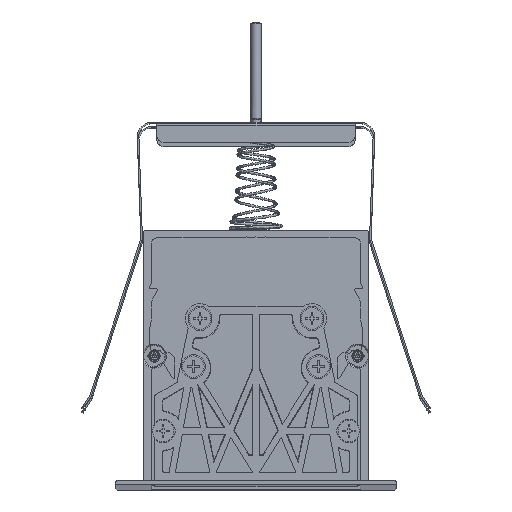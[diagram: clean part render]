
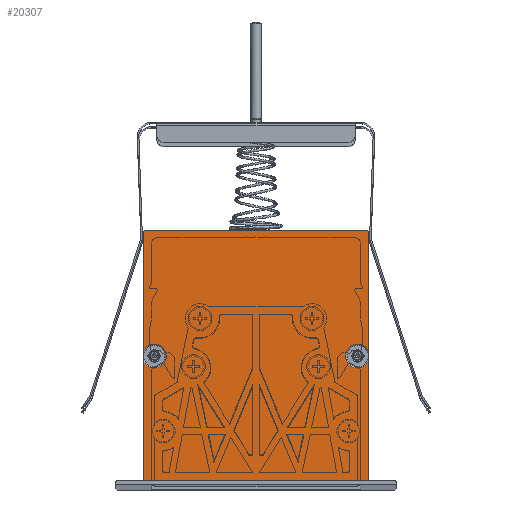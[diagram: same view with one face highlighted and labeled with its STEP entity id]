
A CAD part, top view. The second image highlights one B-rep face of the part: STEP entity #20307.
In plain terms, the highlighted planar face has unit normal (0, 0, 1).
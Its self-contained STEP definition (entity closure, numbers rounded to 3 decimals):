
#1758=FACE_OUTER_BOUND('',#2951,.T.);
#2951=EDGE_LOOP('',(#14426,#14427,#14428,#14429,#14430,#14431,#14432,#14433,
#14434,#14435,#14436,#14437,#14438));
#4318=LINE('',#31369,#5873);
#4319=LINE('',#31373,#5874);
#4320=LINE('',#31377,#5875);
#4321=LINE('',#31381,#5876);
#4322=LINE('',#31387,#5877);
#4323=LINE('',#31391,#5878);
#5873=VECTOR('',#25051,46.59);
#5874=VECTOR('',#25054,45.089);
#5875=VECTOR('',#25057,91.);
#5876=VECTOR('',#25060,45.089);
#5877=VECTOR('',#25065,46.59);
#5878=VECTOR('',#25068,87.2);
#7329=CIRCLE('',#22031,4.7);
#7330=CIRCLE('',#22032,1.5);
#7331=CIRCLE('',#22033,1.5);
#7332=CIRCLE('',#22034,4.7);
#7333=CIRCLE('',#22035,4.7);
#7334=CIRCLE('',#22036,0.4);
#7335=CIRCLE('',#22037,0.4);
#8554=VERTEX_POINT('',#31367);
#8555=VERTEX_POINT('',#31368);
#8556=VERTEX_POINT('',#31370);
#8557=VERTEX_POINT('',#31372);
#8558=VERTEX_POINT('',#31374);
#8559=VERTEX_POINT('',#31376);
#8560=VERTEX_POINT('',#31378);
#8561=VERTEX_POINT('',#31380);
#8562=VERTEX_POINT('',#31382);
#8563=VERTEX_POINT('',#31384);
#8564=VERTEX_POINT('',#31386);
#8565=VERTEX_POINT('',#31388);
#8566=VERTEX_POINT('',#31390);
#10745=EDGE_CURVE('',#8554,#8555,#4318,.T.);
#10746=EDGE_CURVE('',#8556,#8554,#7329,.T.);
#10747=EDGE_CURVE('',#8557,#8556,#4319,.T.);
#10748=EDGE_CURVE('',#8558,#8557,#7330,.F.);
#10749=EDGE_CURVE('',#8559,#8558,#4320,.T.);
#10750=EDGE_CURVE('',#8560,#8559,#7331,.F.);
#10751=EDGE_CURVE('',#8561,#8560,#4321,.T.);
#10752=EDGE_CURVE('',#8562,#8561,#7332,.T.);
#10753=EDGE_CURVE('',#8563,#8562,#7333,.T.);
#10754=EDGE_CURVE('',#8564,#8563,#4322,.T.);
#10755=EDGE_CURVE('',#8565,#8564,#7334,.T.);
#10756=EDGE_CURVE('',#8565,#8566,#4323,.T.);
#10757=EDGE_CURVE('',#8555,#8566,#7335,.T.);
#14426=ORIENTED_EDGE('',*,*,#10745,.F.);
#14427=ORIENTED_EDGE('',*,*,#10746,.F.);
#14428=ORIENTED_EDGE('',*,*,#10747,.F.);
#14429=ORIENTED_EDGE('',*,*,#10748,.F.);
#14430=ORIENTED_EDGE('',*,*,#10749,.F.);
#14431=ORIENTED_EDGE('',*,*,#10750,.F.);
#14432=ORIENTED_EDGE('',*,*,#10751,.F.);
#14433=ORIENTED_EDGE('',*,*,#10752,.F.);
#14434=ORIENTED_EDGE('',*,*,#10753,.F.);
#14435=ORIENTED_EDGE('',*,*,#10754,.F.);
#14436=ORIENTED_EDGE('',*,*,#10755,.F.);
#14437=ORIENTED_EDGE('',*,*,#10756,.T.);
#14438=ORIENTED_EDGE('',*,*,#10757,.F.);
#19711=PLANE('',#22030);
#20307=ADVANCED_FACE('',(#1758),#19711,.F.);
#22030=AXIS2_PLACEMENT_3D('',#31366,#25049,#25050);
#22031=AXIS2_PLACEMENT_3D('',#31371,#25052,#25053);
#22032=AXIS2_PLACEMENT_3D('',#31375,#25055,#25056);
#22033=AXIS2_PLACEMENT_3D('',#31379,#25058,#25059);
#22034=AXIS2_PLACEMENT_3D('',#31383,#25061,#25062);
#22035=AXIS2_PLACEMENT_3D('',#31385,#25063,#25064);
#22036=AXIS2_PLACEMENT_3D('',#31389,#25066,#25067);
#22037=AXIS2_PLACEMENT_3D('',#31392,#25069,#25070);
#25049=DIRECTION('center_axis',(0.,0.,-1.));
#25050=DIRECTION('ref_axis',(-1.,0.,0.));
#25051=DIRECTION('',(0.,1.,0.));
#25052=DIRECTION('center_axis',(0.,0.,1.));
#25053=DIRECTION('ref_axis',(1.,0.,0.));
#25054=DIRECTION('',(0.,1.,0.));
#25055=DIRECTION('center_axis',(0.,0.,-1.));
#25056=DIRECTION('ref_axis',(0.,1.,0.));
#25057=DIRECTION('',(-1.,0.,0.));
#25058=DIRECTION('center_axis',(0.,0.,-1.));
#25059=DIRECTION('ref_axis',(0.,1.,0.));
#25060=DIRECTION('',(0.,-1.,0.));
#25061=DIRECTION('center_axis',(0.,0.,1.));
#25062=DIRECTION('ref_axis',(1.,0.,0.));
#25063=DIRECTION('center_axis',(0.,0.,1.));
#25064=DIRECTION('ref_axis',(1.,0.,0.));
#25065=DIRECTION('',(0.,-1.,0.));
#25066=DIRECTION('center_axis',(0.,0.,-1.));
#25067=DIRECTION('ref_axis',(0.,1.,0.));
#25068=DIRECTION('',(-1.,0.,0.));
#25069=DIRECTION('center_axis',(0.,0.,-1.));
#25070=DIRECTION('ref_axis',(0.,1.,0.));
#31366=CARTESIAN_POINT('Origin',(60.,100.,3.));
#31367=CARTESIAN_POINT('',(-44.,53.01,3.));
#31368=CARTESIAN_POINT('',(-44.,99.6,3.));
#31369=CARTESIAN_POINT('',(-44.,53.01,3.));
#31370=CARTESIAN_POINT('',(-44.,48.189,3.));
#31371=CARTESIAN_POINT('Origin',(-39.965,50.6,3.));
#31372=CARTESIAN_POINT('',(-44.,3.1,3.));
#31373=CARTESIAN_POINT('',(-44.,3.1,3.));
#31374=CARTESIAN_POINT('',(-45.5,1.6,3.));
#31375=CARTESIAN_POINT('Origin',(-45.5,3.1,3.));
#31376=CARTESIAN_POINT('',(45.5,1.6,3.));
#31377=CARTESIAN_POINT('',(45.5,1.6,3.));
#31378=CARTESIAN_POINT('',(44.,3.1,3.));
#31379=CARTESIAN_POINT('Origin',(45.5,3.1,3.));
#31380=CARTESIAN_POINT('',(44.,48.189,3.));
#31381=CARTESIAN_POINT('',(44.,48.189,3.));
#31382=CARTESIAN_POINT('',(35.265,50.6,3.));
#31383=CARTESIAN_POINT('Origin',(39.965,50.6,3.));
#31384=CARTESIAN_POINT('',(44.,53.01,3.));
#31385=CARTESIAN_POINT('Origin',(39.965,50.6,3.));
#31386=CARTESIAN_POINT('',(44.,99.6,3.));
#31387=CARTESIAN_POINT('',(44.,99.6,3.));
#31388=CARTESIAN_POINT('',(43.6,100.,3.));
#31389=CARTESIAN_POINT('Origin',(43.6,99.6,3.));
#31390=CARTESIAN_POINT('',(-43.6,100.,3.));
#31391=CARTESIAN_POINT('',(43.6,100.,3.));
#31392=CARTESIAN_POINT('Origin',(-43.6,99.6,3.));
